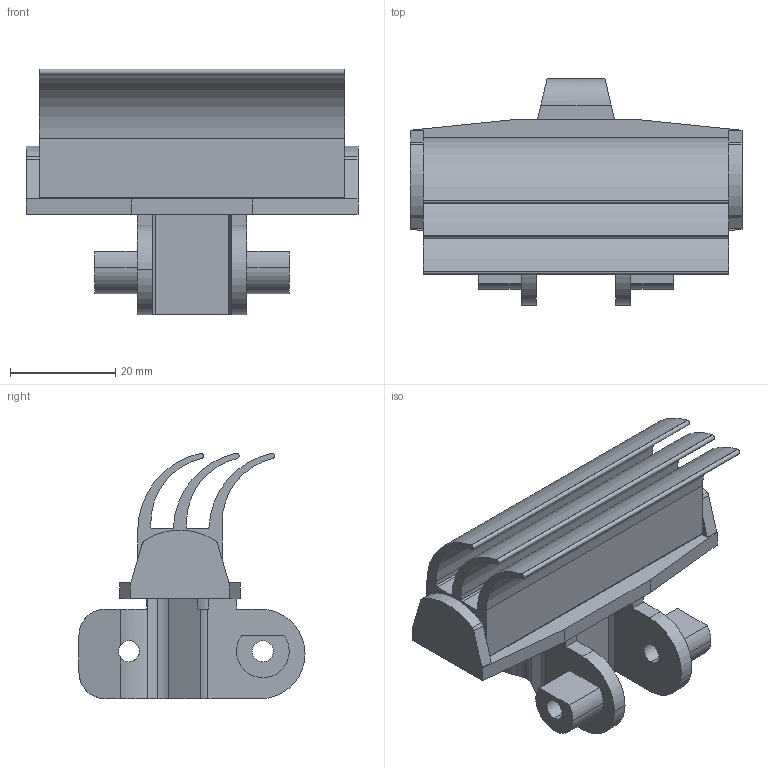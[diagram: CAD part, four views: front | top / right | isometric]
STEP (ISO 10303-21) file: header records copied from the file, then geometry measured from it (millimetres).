
FILE_DESCRIPTION (( 'STEP AP214' ), '1' );
FILE_NAME ('FSWT-5D.STEP', '2012-01-05T14:32:11', ( '.' ), ( '' ), 'SwSTEP 2.0', 'SolidWorks 2010', '' );
FILE_SCHEMA (( 'AUTOMOTIVE_DESIGN' ));
Length unit declared in the file: millimetre
Products named in the file (1): FSWT-5D
Bounding box: 63 x 42.9 x 46.56 mm (x, y, z)
Volume: 26232.1 mm3; surface area: 19308 mm2
Topology: 1 solids, 2 shells, 130 faces, 369 edges, 244 vertices
Faces by surface type: plane 70, cylinder 60
Entity records: 4629 total; most frequent: CARTESIAN_POINT 854, ORIENTED_EDGE 738, DIRECTION 731, EDGE_CURVE 369, VECTOR 245, LINE 245, VERTEX_POINT 244, AXIS2_PLACEMENT_3D 243
